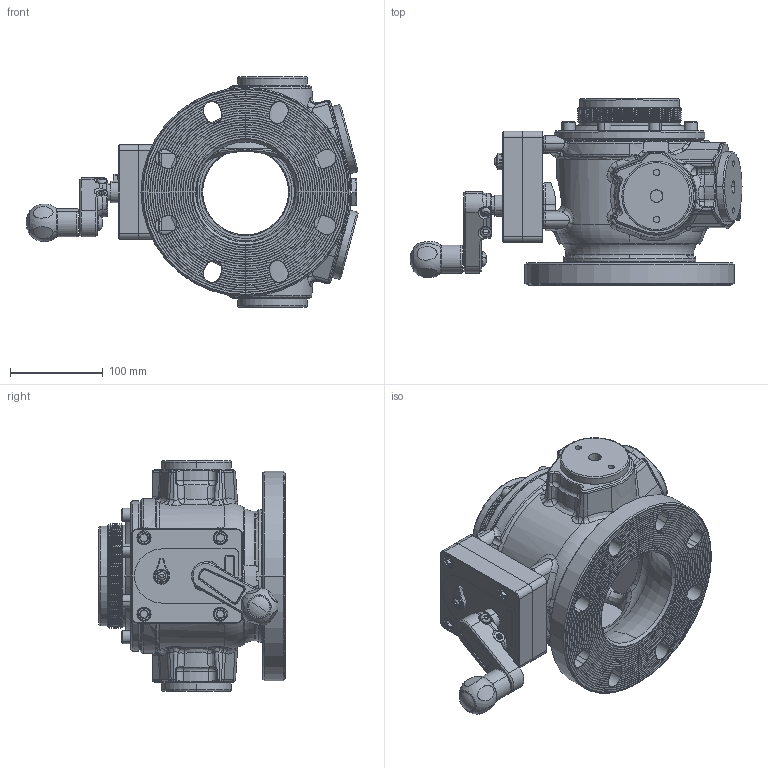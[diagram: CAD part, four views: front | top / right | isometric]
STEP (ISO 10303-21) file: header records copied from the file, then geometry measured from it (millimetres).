
FILE_DESCRIPTION (( 'STEP AP203' ), '1' );
FILE_NAME ('AKP11B111D.STEP', '2014-09-29T18:08:04', ( '' ), ( '' ), 'SwSTEP 2.0', 'SolidWorks 2014', '' );
FILE_SCHEMA (( 'CONFIG_CONTROL_DESIGN' ));
Length unit declared in the file: inch
Products named in the file (1): AKP11B111D
Bounding box: 358.67 x 201.04 x 248.92 mm (x, y, z)
Surface area: 419783.7 mm2 (no closed solid volume)
Topology: 0 solids, 53 shells, 1756 faces, 5301 edges, 3462 vertices
Faces by surface type: plane 463, cylinder 409, torus 336, bspline 268, cone 254, sphere 26
Entity records: 74359 total; most frequent: CARTESIAN_POINT 30757, ORIENTED_EDGE 9151, DIRECTION 8462, EDGE_CURVE 5284, VERTEX_POINT 3460, AXIS2_PLACEMENT_3D 3310, EDGE_LOOP 1877, LINE 1842
